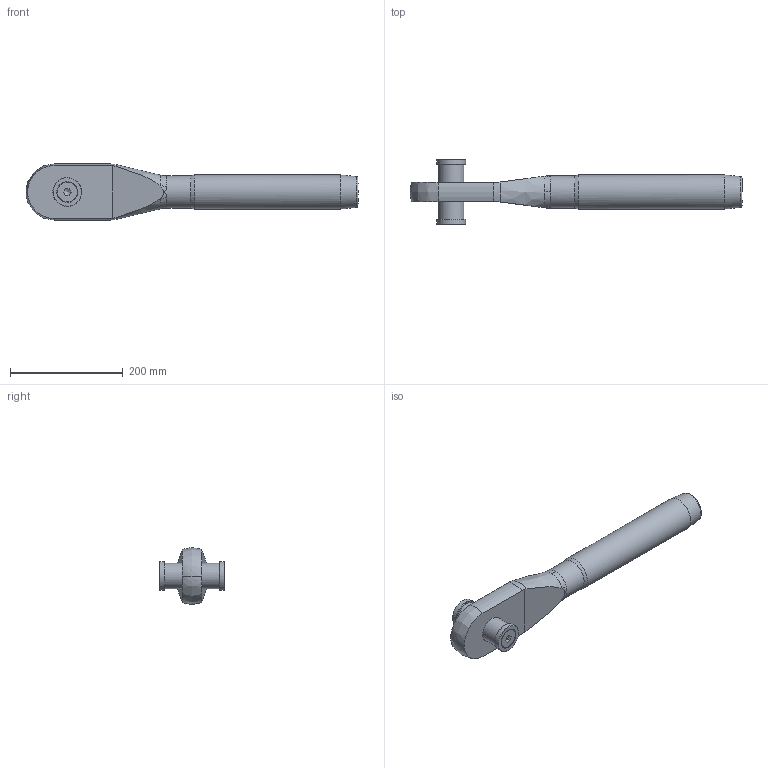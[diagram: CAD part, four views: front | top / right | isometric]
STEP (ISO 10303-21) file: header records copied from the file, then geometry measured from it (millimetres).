
FILE_DESCRIPTION(/* description */ (''),/* implementation_level */ '2;1');
FILE_NAME(/* name */ 'MCC 32_1,4418',/* time_stamp */ '2023-05-23T15:40:38+02:00',/* author */ (''),/* organization */ (''),/* preprocessor_version */ 'ST-DEVELOPER v16.5',/* originating_system */ 'Rhino 7.22',/* authorisation */ '');
FILE_SCHEMA (('CONFIG_CONTROL_DESIGN'));
Length unit declared in the file: millimetre
Products named in the file (1): Document
Bounding box: 589 x 115.01 x 100 mm (x, y, z)
Volume: 1862142 mm3; surface area: 166002.2 mm2
Topology: 6 solids, 6 shells, 74 faces, 203 edges, 135 vertices
Faces by surface type: bspline 31, plane 27, cylinder 16
Full cylindrical faces by diameter (mm): 17.294 x2, 20 x2, 21 x2, 35.4 x2, 45 x1, 47 x1, 51 x2, 57.2 x1, 60.5 x1
Entity records: 3250 total; most frequent: CARTESIAN_POINT 1995, ORIENTED_EDGE 386, EDGE_CURVE 193, VERTEX_POINT 135, EDGE_LOOP 84, ADVANCED_FACE 74, FACE_OUTER_BOUND 74, B_SPLINE_CURVE_WITH_KNOTS 64
